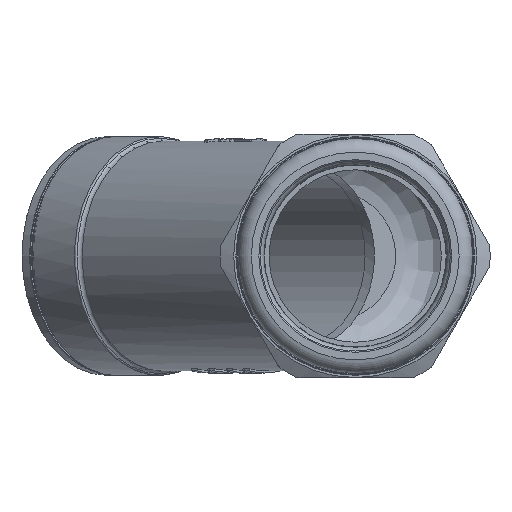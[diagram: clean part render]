
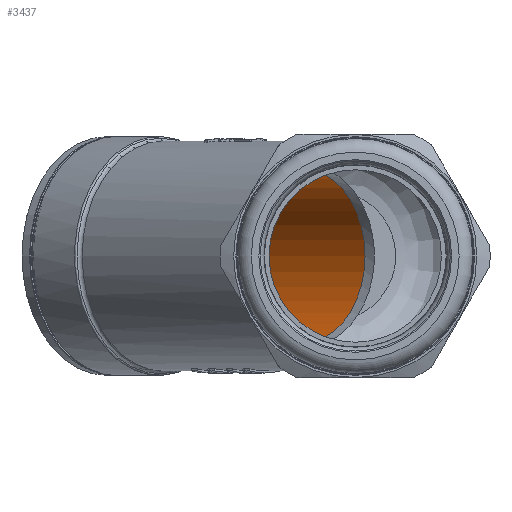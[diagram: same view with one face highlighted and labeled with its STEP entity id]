
A CAD part, left-side view. The second image highlights one B-rep face of the part: STEP entity #3437.
In plain terms, the highlighted cylindrical face has radius 20.2 mm (diameter 40.4 mm), a full revolution.
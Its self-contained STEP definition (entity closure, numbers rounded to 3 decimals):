
#3406=CARTESIAN_POINT('',(42.362,38.295,0.0));
#3407=VERTEX_POINT('',#3406);
#3408=CARTESIAN_POINT('',(28.079,52.579,0.0));
#3409=DIRECTION('',(-0.707,-0.707,0.0));
#3410=DIRECTION('',(0.707,-0.707,0.0));
#3411=AXIS2_PLACEMENT_3D('',#3408,#3409,#3410);
#3412=CIRCLE('',#3411,20.2);
#3413=EDGE_CURVE('',#3407,#3407,#3412,.T.);
#3418=CARTESIAN_POINT('',(-12.934,11.566,0.0));
#3419=DIRECTION('',(0.707,0.707,0.0));
#3420=DIRECTION('',(0.707,-0.707,0.0));
#3421=AXIS2_PLACEMENT_3D('',#3418,#3419,#3420);
#3422=CYLINDRICAL_SURFACE('',#3421,20.2);
#3423=CARTESIAN_POINT('',(1.35,-2.717,0.0));
#3424=VERTEX_POINT('',#3423);
#3425=CARTESIAN_POINT('',(-12.934,11.566,0.0));
#3426=DIRECTION('',(0.707,0.707,0.0));
#3427=DIRECTION('',(0.707,-0.707,0.0));
#3428=AXIS2_PLACEMENT_3D('',#3425,#3426,#3427);
#3429=CIRCLE('',#3428,20.2);
#3430=EDGE_CURVE('',#3424,#3424,#3429,.T.);
#3431=ORIENTED_EDGE('',*,*,#3430,.F.);
#3432=EDGE_LOOP('',(#3431));
#3433=FACE_OUTER_BOUND('',#3432,.T.);
#3434=ORIENTED_EDGE('',*,*,#3413,.F.);
#3435=EDGE_LOOP('',(#3434));
#3436=FACE_BOUND('',#3435,.T.);
#3437=ADVANCED_FACE('',(#3433,#3436),#3422,.F.);
